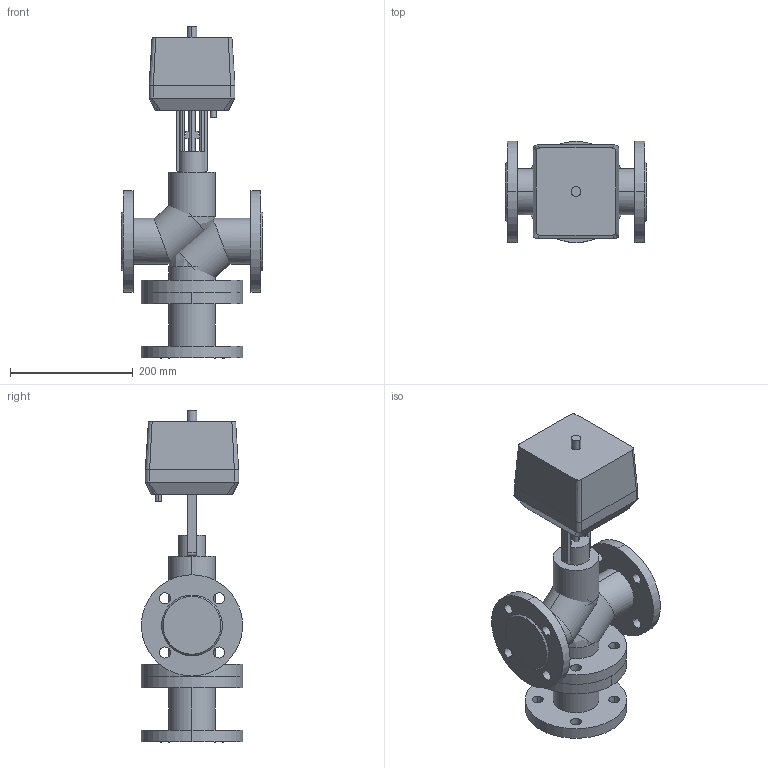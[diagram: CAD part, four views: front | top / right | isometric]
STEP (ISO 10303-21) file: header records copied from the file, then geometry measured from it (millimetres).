
FILE_DESCRIPTION(/* description */ (''),/* implementation_level */ '2;1');
FILE_NAME(/* name */ 'ТРК DN50 PN 2.5 МПа VTM-i 1000H',/* time_stamp */ '2026-07-14T23:23:49+03:00',/* author */ (''),/* organization */ (''),/* preprocessor_version */ 'ST-DEVELOPER v20',/* originating_system */ '',/* authorisation */ '');
FILE_SCHEMA (('AP242_MANAGED_MODEL_BASED_3D_ENGINEERING_MIM_LF { 1 0 10303 442 1 1 4 }'));
Length unit declared in the file: millimetre
Products named in the file (17): TopLevelAssembly; Выдавливание; Модификатор; Модификатор_1; Выдавливание_
1; Выдавливание_
2; Вращение; Выдавливание_
3; Выдавливание_
4; Выдавливание_
5; Выдавливание_
6; Выдавливание_
7; 1600; Переход; Объемная геометрия 
присоединена; Полый Выдавливание; Объемная геометрия 
присоединена_1
Assembly tree (16 placements, depth 2):
  TopLevelAssembly
    Выдавливание
    Модификатор
    Модификатор_1
    Выдавливание_
1
    Выдавливание_
2
    Вращение
    Выдавливание_
3
    Выдавливание_
4
    Выдавливание_
5
    Выдавливание_
6
    Выдавливание_
7
    1600
    Переход
    Объемная геометрия 
присоединена
    Полый Выдавливание
    Объемная геометрия 
присоединена_1
Bounding box: 230 x 165 x 541 mm (x, y, z)
Volume: 6693256.5 mm3; surface area: 723764.5 mm2
Topology: 24 solids, 24 shells, 198 faces, 450 edges, 296 vertices
Faces by surface type: cylinder 98, plane 84, bspline 12, cone 4
Entity records: 6460 total; most frequent: CARTESIAN_POINT 1249, DIRECTION 1112, ORIENTED_EDGE 884, AXIS2_PLACEMENT_3D 451, EDGE_CURVE 442, VERTEX_POINT 296, EDGE_LOOP 252, CIRCLE 224
